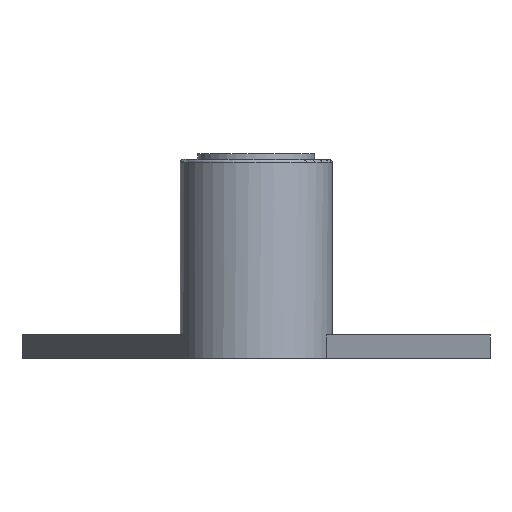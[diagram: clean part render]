
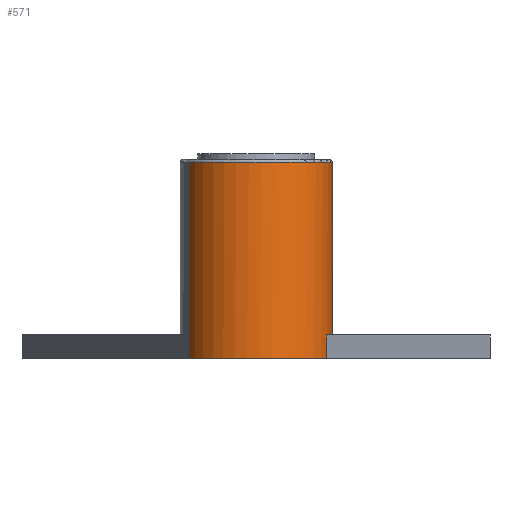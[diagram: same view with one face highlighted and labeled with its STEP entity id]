
A CAD part, front view. The second image highlights one B-rep face of the part: STEP entity #571.
In plain terms, the highlighted cylindrical face has radius 6.5 mm (diameter 13 mm), a partial arc.
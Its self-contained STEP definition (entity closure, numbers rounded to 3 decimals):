
#13 = VECTOR ( 'NONE', #131, 1000. ) ;
#21 = CARTESIAN_POINT ( 'NONE',  ( 0.012, -28.506, 0. ) ) ;
#28 = CARTESIAN_POINT ( 'NONE',  ( 6.512, -28.506, 16.75 ) ) ;
#40 = VERTEX_POINT ( 'NONE', #103 ) ;
#50 = CIRCLE ( 'NONE', #86, 6.5 ) ;
#63 = CARTESIAN_POINT ( 'NONE',  ( 6.048, -30.917, 0. ) ) ;
#74 = VERTEX_POINT ( 'NONE', #245 ) ;
#86 = AXIS2_PLACEMENT_3D ( 'NONE', #567, #328, #589 ) ;
#87 = ORIENTED_EDGE ( 'NONE', *, *, #443, .F. ) ;
#90 = ORIENTED_EDGE ( 'NONE', *, *, #354, .F. ) ;
#94 = FACE_OUTER_BOUND ( 'NONE', #438, .T. ) ;
#103 = CARTESIAN_POINT ( 'NONE',  ( 6.048, -30.917, 2. ) ) ;
#110 = ORIENTED_EDGE ( 'NONE', *, *, #698, .F. ) ;
#116 = ORIENTED_EDGE ( 'NONE', *, *, #139, .F. ) ;
#131 = DIRECTION ( 'NONE',  ( 0., 0., 1. ) ) ;
#139 = EDGE_CURVE ( 'NONE', #156, #383, #256, .T. ) ;
#150 = CARTESIAN_POINT ( 'NONE',  ( -5.782, -31.453, 0. ) ) ;
#153 = VECTOR ( 'NONE', #610, 1000. ) ;
#156 = VERTEX_POINT ( 'NONE', #63 ) ;
#169 = DIRECTION ( 'NONE',  ( -0.929, 0.371, 0. ) ) ;
#172 = ORIENTED_EDGE ( 'NONE', *, *, #418, .F. ) ;
#186 = ORIENTED_EDGE ( 'NONE', *, *, #237, .T. ) ;
#188 = AXIS2_PLACEMENT_3D ( 'NONE', #246, #840, #225 ) ;
#194 = CARTESIAN_POINT ( 'NONE',  ( 0.012, -28.506, 0. ) ) ;
#219 = AXIS2_PLACEMENT_3D ( 'NONE', #194, #470, #346 ) ;
#225 = DIRECTION ( 'NONE',  ( -0.929, 0.371, 0. ) ) ;
#232 = CIRCLE ( 'NONE', #738, 6.5 ) ;
#237 = EDGE_CURVE ( 'NONE', #156, #40, #618, .T. ) ;
#245 = CARTESIAN_POINT ( 'NONE',  ( -5.782, -31.453, 16.75 ) ) ;
#246 = CARTESIAN_POINT ( 'NONE',  ( 0.012, -28.506, 16.75 ) ) ;
#256 = CIRCLE ( 'NONE', #219, 6.5 ) ;
#276 = CARTESIAN_POINT ( 'NONE',  ( -5.782, -31.453, 0. ) ) ;
#286 = EDGE_CURVE ( 'NONE', #442, #74, #362, .T. ) ;
#294 = DIRECTION ( 'NONE',  ( 0., 0., 1. ) ) ;
#301 = ORIENTED_EDGE ( 'NONE', *, *, #873, .T. ) ;
#305 = DIRECTION ( 'NONE',  ( 0., 0., 1. ) ) ;
#308 = DIRECTION ( 'NONE',  ( 0., 0., 1. ) ) ;
#328 = DIRECTION ( 'NONE',  ( 0., 0., -1. ) ) ;
#346 = DIRECTION ( 'NONE',  ( 0.891, 0.453, 0. ) ) ;
#347 = LINE ( 'NONE', #276, #885 ) ;
#354 = EDGE_CURVE ( 'NONE', #383, #442, #347, .T. ) ;
#362 = LINE ( 'NONE', #150, #153 ) ;
#363 = CARTESIAN_POINT ( 'NONE',  ( 6.048, -30.917, 0. ) ) ;
#366 = CARTESIAN_POINT ( 'NONE',  ( -5.782, -31.453, 2. ) ) ;
#369 = CARTESIAN_POINT ( 'NONE',  ( 5.806, -25.559, 16.75 ) ) ;
#371 = CYLINDRICAL_SURFACE ( 'NONE', #758, 6.5 ) ;
#383 = VERTEX_POINT ( 'NONE', #652 ) ;
#403 = VERTEX_POINT ( 'NONE', #28 ) ;
#418 = EDGE_CURVE ( 'NONE', #403, #569, #533, .T. ) ;
#438 = EDGE_LOOP ( 'NONE', ( #639, #90, #116, #186, #87, #301, #172, #110 ) ) ;
#442 = VERTEX_POINT ( 'NONE', #366 ) ;
#443 = EDGE_CURVE ( 'NONE', #855, #40, #50, .T. ) ;
#457 = VECTOR ( 'NONE', #294, 1000. ) ;
#470 = DIRECTION ( 'NONE',  ( 0., 0., -1. ) ) ;
#512 = CARTESIAN_POINT ( 'NONE',  ( 0.012, -28.506, 16.75 ) ) ;
#533 = CIRCLE ( 'NONE', #188, 6.5 ) ;
#542 = CARTESIAN_POINT ( 'NONE',  ( 5.806, -25.559, 0. ) ) ;
#567 = CARTESIAN_POINT ( 'NONE',  ( 0.012, -28.506, 2. ) ) ;
#569 = VERTEX_POINT ( 'NONE', #369 ) ;
#571 = ADVANCED_FACE ( 'NONE', ( #94 ), #371, .T. ) ;
#589 = DIRECTION ( 'NONE',  ( 1., 0., 0. ) ) ;
#610 = DIRECTION ( 'NONE',  ( 0., 0., 1. ) ) ;
#618 = LINE ( 'NONE', #363, #457 ) ;
#639 = ORIENTED_EDGE ( 'NONE', *, *, #286, .F. ) ;
#641 = DIRECTION ( 'NONE',  ( 0.891, 0.453, 0. ) ) ;
#652 = CARTESIAN_POINT ( 'NONE',  ( -5.782, -31.453, 0. ) ) ;
#698 = EDGE_CURVE ( 'NONE', #74, #403, #232, .T. ) ;
#738 = AXIS2_PLACEMENT_3D ( 'NONE', #512, #308, #169 ) ;
#755 = DIRECTION ( 'NONE',  ( 0., 0., 1. ) ) ;
#758 = AXIS2_PLACEMENT_3D ( 'NONE', #21, #305, #641 ) ;
#807 = CARTESIAN_POINT ( 'NONE',  ( 5.806, -25.559, 2. ) ) ;
#840 = DIRECTION ( 'NONE',  ( 0., 0., 1. ) ) ;
#855 = VERTEX_POINT ( 'NONE', #807 ) ;
#873 = EDGE_CURVE ( 'NONE', #855, #569, #884, .T. ) ;
#884 = LINE ( 'NONE', #542, #13 ) ;
#885 = VECTOR ( 'NONE', #755, 1000. ) ;
